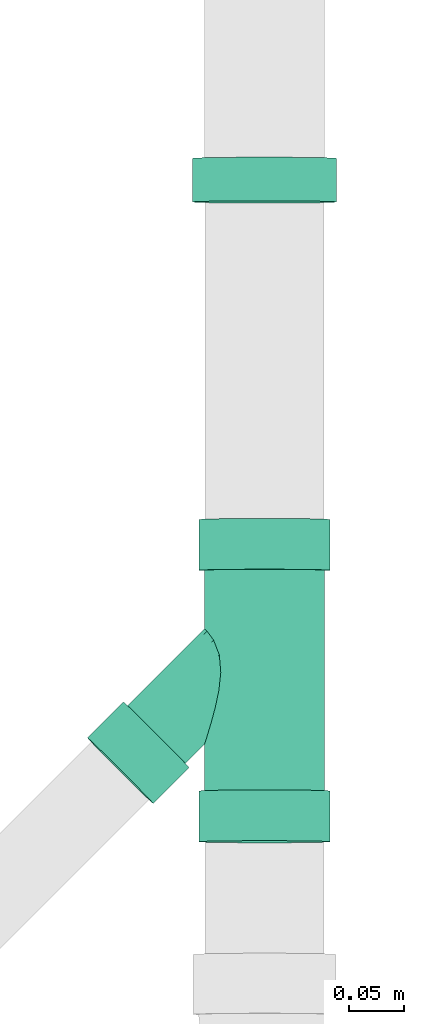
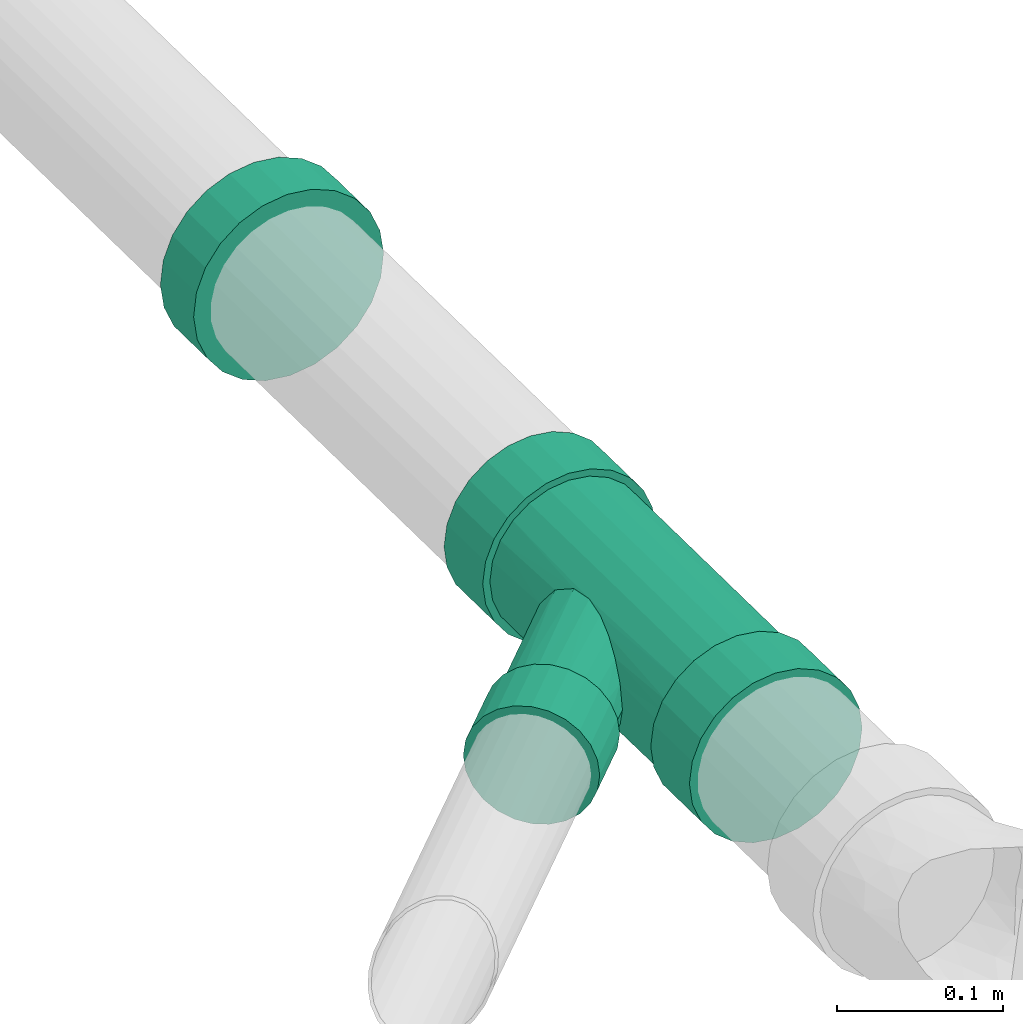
# One storey, part 59 of 83: 2 flow fittings.
"""IFC2X3 building model written with IfcOpenShell, lengths in millimetres."""

from ifc_helpers import new_model, entity, si_unit, converted_unit, derived_unit, direction, frame, origin_with_axes, place, context, subcontext, project, spatial, open_shell, surface_model, source, transform, mapped, type_object, element, save


model = new_model("IFC2X3")

# Units and contexts
model_context = context("Model", 3, precision=0.01, world=frame((0.0, 4.29681676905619e-09, 0.0)), true_north=direction((4.01073788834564e-13, 1.0)))
plan_context = context("Plan", 3, precision=0.01, world=frame((0.0, 4.29681676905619e-09, 0.0)), true_north=direction((4.01073788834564e-13, 1.0)))
body_context = subcontext(model_context, "Body", "Model", "MODEL_VIEW")
ifc_project = project(units=[converted_unit("PLANEANGLEUNIT", "DEGREE", entity("IfcPositiveLengthMeasure", 0.0174532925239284), si_unit("PLANEANGLEUNIT", "RADIAN"), dimensions=[0, 0, 0, 0, 0, 0, 0]), si_unit("AREAUNIT", "SQUARE_METRE"), si_unit("LENGTHUNIT", "METRE", prefix="MILLI"), si_unit("MASSUNIT", "GRAM", prefix="KILO"), si_unit("POWERUNIT", "WATT"), si_unit("PRESSUREUNIT", "PASCAL"), si_unit("FORCEUNIT", "NEWTON", prefix="KILO"), si_unit("ELECTRICVOLTAGEUNIT", "VOLT"), si_unit("ELECTRICCURRENTUNIT", "AMPERE"), si_unit("THERMODYNAMICTEMPERATUREUNIT", "DEGREE_CELSIUS"), si_unit("TIMEUNIT", "SECOND"), si_unit("VOLUMEUNIT", "CUBIC_METRE"), derived_unit("LINEARVELOCITYUNIT", [(si_unit("LENGTHUNIT", "METRE"), 1), (si_unit("TIMEUNIT", "SECOND"), -1)]), derived_unit("VOLUMETRICFLOWRATEUNIT", [(si_unit("VOLUMEUNIT", "CUBIC_METRE"), 1), (si_unit("TIMEUNIT", "SECOND"), -1)]), derived_unit("THERMALTRANSMITTANCEUNIT", [(si_unit("POWERUNIT", "WATT"), 1), (si_unit("THERMODYNAMICTEMPERATUREUNIT", "KELVIN"), -1), (si_unit("AREAUNIT", "SQUARE_METRE"), -1)]), derived_unit("SOUNDPRESSUREUNIT", [(si_unit("PRESSUREUNIT", "PASCAL"), 1)])], contexts=[model_context, plan_context])

# Site, building, storey
site_placement = place(None, frame((0.0, -4.29681676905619e-09, 0.0), z_axis=(0.0, 0.0, 1.0), x_axis=(1.0, 0.0, 0.0)))
site = spatial("IfcSite", under=ifc_project, at=site_placement, Name="ENGM", CompositionType="ELEMENT")
building_placement = place(site_placement, frame((0.0, 4.29681676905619e-09, 0.0), z_axis=(0.0, 0.0, 1.0), x_axis=(1.0, 0.0, 0.0)))
building = spatial("IfcBuilding", under=site, at=building_placement, Name="TI", CompositionType="ELEMENT")
storey_placement = place(building_placement, frame((0.0, 0.0, 204000.0), z_axis=(0.0, 0.0, 1.0), x_axis=(1.0, 0.0, 0.0)))
storey = spatial("IfcBuildingStorey", under=building, at=storey_placement, Name="Nivå D", CompositionType="ELEMENT", Elevation=204000.0)

# Flow fittings
pipe_fitting_type_1 = type_object("IfcPipeFittingType", Name="magi_sewer_tee_wye_NOR", PredefinedType="JUNCTION")
shared_shape_1 = source(origin_with_axes(), body_context, "Body", "SurfaceModel", [
    surface_model("IfcShellBasedSurfaceModel", [(197.2314, 30.0, -51.96152), (197.2314, -42.42641, -42.42641), (197.2314, 15.52914, -57.95555), (197.2314, 51.96152, -30.0), (197.2314, 42.42641, -42.42641), (197.2314, 57.95555, -15.52914), (197.2314, 60.0, 0.0), (197.2314, 0.0, -60.0), (197.2314, -30.0, -51.96152), (197.2314, -15.52914, -57.95555), (197.2314, 57.95555, 15.52914), (197.2314, -51.96152, -30.0), (197.2314, -60.0, 0.0), (197.2314, -57.95555, -15.52914), (197.2314, 51.96152, 30.0), (197.2314, 42.42641, 42.42641), (197.2314, 15.52914, 57.95555), (197.2314, 0.0, 60.0), (197.2314, 30.0, 51.96152), (197.2314, -51.96152, 30.0), (197.2314, -57.95555, 15.52914), (197.2314, -30.0, 51.96152), (197.2314, -42.42641, 42.42641), (197.2314, -15.52914, 57.95555), (150.7314, 42.42641, 42.42641), (150.7314, 0.0, 60.0), (150.7314, 15.52914, 57.95555), (150.7314, 30.0, 51.96152), (150.7314, 51.96152, 30.0), (150.7314, 57.95555, 15.52914), (150.7314, -60.0, 0.0), (150.7314, -30.0, 51.96152), (150.7314, -51.96152, 30.0), (150.7314, -42.42641, 42.42641), (150.7314, -15.52914, 57.95555), (150.7314, -57.95555, 15.52914), (150.7314, -51.96152, -30.0), (150.7314, -42.42641, -42.42641), (150.7314, 57.95555, -15.52914), (150.7314, 42.42641, -42.42641), (150.7314, 51.96152, -30.0), (150.7314, 30.0, -51.96152), (150.7314, 15.52914, -57.95555), (150.7314, -57.95555, -15.52914), (150.7314, -30.0, -51.96152), (150.7314, 0.0, -60.0), (150.7314, -15.52914, -57.95555), (150.7314, 60.0, 0.0), (99.21794, -99.19519, -42.5), (77.97037, -120.44763, -30.05204), (106.99509, -91.41626, -41.05185), (114.24223, -84.16745, -36.80608), (125.24078, -73.16637, -21.25), (120.4655, -77.94275, -30.05204), (128.24264, -70.16382, -10.99981), (84.19364, -114.22292, -36.80608), (91.44078, -106.97412, -41.05185), (70.19322, -128.22656, -10.99981), (69.16934, -129.25067, 0.0), (73.19509, -125.224, -21.25), (128.24264, -70.16382, 10.99981), (70.19322, -128.22656, 10.99981), (125.24078, -73.16637, 21.25), (114.24223, -84.16745, 36.80608), (120.4655, -77.94275, 30.05204), (99.21794, -99.19519, 42.5), (106.99509, -91.41626, 41.05185), (73.19509, -125.224, 21.25), (77.97037, -120.44763, 30.05204), (91.44078, -106.97412, 41.05185), (84.19364, -114.22292, 36.80608), (129.26653, -69.1397, 0.0), (139.87932, -124.29295, -41.05185), (124.32502, -139.85081, -41.05185), (132.10217, -132.07188, -42.5), (153.34974, -110.81944, -30.05204), (147.12647, -117.04414, -36.80608), (158.12501, -106.04307, -21.25), (161.12688, -103.04051, -10.99981), (103.07746, -161.10325, 10.99981), (110.85461, -153.32433, -30.05204), (117.07787, -147.09962, -36.80608), (103.07746, -161.10325, -10.99981), (106.07933, -158.10069, -21.25), (102.05358, -162.12737, 0.0), (161.12688, -103.04051, 10.99981), (158.12501, -106.04307, 21.25), (147.12647, -117.04414, 36.80608), (153.34974, -110.81944, 30.05204), (139.87932, -124.29295, 41.05185), (132.10217, -132.07188, 42.5), (110.85461, -153.32433, 30.05204), (106.07933, -158.10069, 21.25), (117.07787, -147.09962, 36.80608), (124.32502, -139.85081, 41.05185), (162.15077, -102.0164, 0.0), (-98.01347, -30.0, -51.96152), (-98.01347, 42.42641, -42.42641), (-98.01347, -15.52914, -57.95555), (-98.01347, -51.96152, -30.0), (-98.01347, -42.42641, -42.42641), (-98.01347, -57.95555, -15.52914), (-98.01347, -60.0, 0.0), (-98.01347, 0.0, -60.0), (-98.01347, 30.0, -51.96152), (-98.01347, 15.52914, -57.95555), (-98.01347, -57.95555, 15.52914), (-98.01347, 51.96152, -30.0), (-98.01347, 60.0, 0.0), (-98.01347, 57.95555, -15.52914), (-98.01347, -51.96152, 30.0), (-98.01347, -42.42641, 42.42641), (-98.01347, -15.52914, 57.95555), (-98.01347, 0.0, 60.0), (-98.01347, -30.0, 51.96152), (-98.01347, 51.96152, 30.0), (-98.01347, 57.95555, 15.52914), (-98.01347, 30.0, 51.96152), (-98.01347, 42.42641, 42.42641), (-98.01347, 15.52914, 57.95555), (-51.51346, -42.42641, 42.42641), (-51.51346, 0.0, 60.0), (-51.51346, -15.52914, 57.95555), (-51.51346, -30.0, 51.96152), (-51.51346, -51.96152, 30.0), (-51.51346, -57.95555, 15.52914), (-51.51346, 60.0, 0.0), (-51.51346, 30.0, 51.96152), (-51.51346, 51.96152, 30.0), (-51.51346, 42.42641, 42.42641), (-51.51346, 15.52914, 57.95555), (-51.51346, 57.95555, 15.52914), (-51.51346, 51.96152, -30.0), (-51.51346, 42.42641, -42.42641), (-51.51346, -57.95555, -15.52914), (-51.51346, -42.42641, -42.42641), (-51.51346, -51.96152, -30.0), (-51.51346, -30.0, -51.96152), (-51.51346, -15.52914, -57.95555), (-51.51346, 57.95555, -15.52914), (-51.51346, 30.0, -51.96152), (-51.51346, 0.0, -60.0), (-51.51346, 15.52914, -57.95555), (-51.51346, -60.0, 0.0), (150.7314, 0.0, -55.0), (150.7314, 14.23505, -53.12592), (150.7314, 27.5, -47.63139), (150.7314, 38.89087, -38.89087), (150.7314, 47.63139, -27.5), (150.7314, -55.0, 0.0), (150.7314, -27.5, -47.63139), (150.7314, 53.12592, -14.23505), (150.7314, -14.23505, -53.12592), (150.7314, -47.63139, -27.5), (150.7314, -38.89087, -38.89087), (150.7314, -53.12592, -14.23505), (150.7314, -47.63139, 27.5), (150.7314, 55.0, 0.0), (150.7314, 47.63139, 27.5), (150.7314, 27.5, 47.63139), (150.7314, 38.89087, 38.89087), (150.7314, 14.23505, 53.12592), (150.7314, 0.0, 55.0), (150.7314, -53.12592, 14.23505), (150.7314, -27.5, 47.63139), (150.7314, -38.89087, 38.89087), (150.7314, -14.23505, 53.12592), (150.7314, 53.12592, 14.23505), (-51.51346, 0.0, 55.0), (-51.51346, 14.23505, 53.12592), (-51.51346, 27.5, 47.63139), (-51.51346, 47.63139, 27.5), (-51.51346, -47.63139, 27.5), (-51.51346, 38.89087, 38.89087), (-51.51346, 53.12592, -14.23505), (-51.51346, -27.5, 47.63139), (-51.51346, -14.23505, 53.12592), (-51.51346, -38.89087, 38.89087), (-51.51346, -55.0, 0.0), (-51.51346, -53.12592, 14.23505), (-51.51346, 53.12592, 14.23505), (-51.51346, 47.63139, -27.5), (-51.51346, -27.5, -47.63139), (-51.51346, 0.0, -55.0), (-51.51346, 38.89087, -38.89087), (-51.51346, 27.5, -47.63139), (-51.51346, 14.23505, -53.12592), (-51.51346, -47.63139, -27.5), (-51.51346, -38.89087, -38.89087), (-51.51346, -53.12592, -14.23505), (-51.51346, -14.23505, -53.12592), (-51.51346, 55.0, 0.0), (1.97352, -55.0, 0.0), (4.64918, -52.63398, -15.9582), (26.60062, -41.6117, -35.96479), (12.91165, -46.84943, -28.81199), (42.85864, -40.27485, -37.45579), (89.17249, -49.17381, -24.63609), (150.7314, -50.37866, -20.86752), (108.0517, -55.0, 0.0), (101.74192, -52.97914, -14.77195), (74.62728, -45.26915, -31.23625), (59.08596, -42.00512, -35.50451), (42.85864, -40.27485, 37.45579), (26.60062, -41.6117, 35.96479), (12.91165, -46.84943, 28.81199), (101.74192, -52.97914, 14.77195), (150.7314, -50.37866, 20.86752), (89.17249, -49.17381, 24.63609), (4.64918, -52.63398, 15.9582), (59.08596, -42.00512, 35.50451), (74.62728, -45.26915, 31.23625), (99.21794, -99.19519, -37.5), (106.08013, -92.33143, -36.22222), (112.47467, -85.93542, -32.47595), (85.9612, -112.45495, -32.47595), (122.17927, -76.22859, -18.75), (124.82797, -73.57928, -9.70571), (117.96578, -80.44304, -26.5165), (73.60789, -124.8111, 9.70571), (76.2566, -122.16178, -18.75), (80.47009, -117.94733, -26.5165), (92.35575, -106.05895, -36.22222), (73.60789, -124.8111, -9.70571), (72.70447, -125.71473, 0.0), (125.7314, -72.67564, 0.0), (124.82797, -73.57928, 9.70571), (122.17927, -76.22859, 18.75), (117.96578, -80.44304, 26.5165), (112.47467, -85.93542, 32.47595), (106.08013, -92.33143, 36.22222), (76.2566, -122.16178, 18.75), (85.9612, -112.45495, 32.47595), (80.47009, -117.94733, 26.5165), (92.35575, -106.05895, 36.22222), (99.21794, -99.19519, 37.5), (8.78041, -49.7417, 22.3851), (19.75614, -44.23057, 32.38839), (3.31135, -53.81699, 7.9791), (106.47426, -54.49478, 3.69299), (125.27969, -73.12746, 4.85286), (123.50363, -74.90393, 14.22786), (104.89681, -53.98957, 7.38598), (95.45721, -51.07647, 19.70402), (104.89681, -53.98957, -7.38598), (125.27969, -73.12746, -4.85286), (95.45721, -51.07647, -19.70402), (106.47426, -54.49478, -3.69299), (8.78041, -49.7417, -22.3851), (123.50363, -74.90393, -14.22786), (19.75614, -44.23057, -32.38839), (3.31135, -53.81699, -7.9791)], [open_shell([[[0, 1, 2]], [[3, 0, 4]], [[5, 6, 0]], [[5, 0, 3]], [[1, 0, 6]], [[7, 8, 9]], [[8, 7, 1]], [[2, 1, 7]], [[1, 10, 11]], [[11, 12, 13]], [[10, 1, 6]], [[10, 14, 15]], [[12, 10, 15]], [[16, 17, 15]], [[16, 15, 18]], [[19, 15, 17]], [[12, 19, 20]], [[12, 15, 19]], [[19, 21, 22]], [[19, 17, 21]], [[23, 21, 17]], [[10, 12, 11]], [[24, 25, 26]], [[24, 26, 27]], [[24, 28, 29]], [[25, 24, 30]], [[30, 24, 29]], [[31, 32, 33]], [[31, 34, 25]], [[32, 30, 35]], [[31, 25, 32]], [[25, 30, 32]], [[29, 36, 30]], [[37, 29, 38]], [[39, 38, 40]], [[41, 42, 38]], [[41, 38, 39]], [[37, 38, 42]], [[37, 36, 29]], [[43, 30, 36]], [[44, 45, 46]], [[45, 44, 37]], [[45, 37, 42]], [[47, 38, 29]], [[43, 13, 30]], [[36, 11, 43]], [[8, 37, 44]], [[36, 37, 1]], [[9, 44, 46]], [[43, 11, 13]], [[13, 12, 30]], [[9, 8, 44]], [[1, 37, 8]], [[1, 11, 36]], [[7, 9, 46]], [[46, 45, 7]], [[2, 42, 41]], [[39, 0, 41]], [[3, 40, 38]], [[39, 40, 4]], [[5, 38, 47]], [[42, 2, 45]], [[41, 0, 2]], [[45, 2, 7]], [[39, 4, 0]], [[40, 3, 4]], [[5, 3, 38]], [[47, 6, 5]], [[29, 10, 47]], [[28, 14, 29]], [[18, 24, 27]], [[28, 24, 15]], [[16, 27, 26]], [[29, 14, 10]], [[10, 6, 47]], [[18, 27, 16]], [[15, 24, 18]], [[15, 14, 28]], [[16, 25, 17]], [[16, 26, 25]], [[23, 34, 31]], [[33, 21, 31]], [[19, 32, 35]], [[33, 32, 22]], [[20, 35, 30]], [[34, 23, 25]], [[31, 21, 23]], [[25, 23, 17]], [[33, 22, 21]], [[32, 19, 22]], [[20, 19, 35]], [[30, 12, 20]], [[48, 49, 50]], [[51, 50, 52]], [[49, 52, 50]], [[53, 51, 52]], [[52, 49, 54]], [[55, 49, 56]], [[49, 48, 56]], [[57, 58, 59]], [[49, 59, 58]], [[49, 58, 54]], [[58, 60, 54]], [[60, 58, 61]], [[60, 61, 62]], [[63, 62, 61]], [[64, 62, 63]], [[63, 65, 66]], [[67, 68, 61]], [[68, 63, 61]], [[69, 65, 70]], [[68, 70, 65]], [[68, 65, 63]], [[71, 54, 60]], [[72, 73, 74]], [[75, 72, 76]], [[75, 77, 78]], [[79, 73, 72]], [[72, 75, 79]], [[73, 80, 81]], [[80, 73, 82]], [[80, 82, 83]], [[84, 82, 79]], [[79, 82, 73]], [[75, 78, 85]], [[75, 85, 86]], [[79, 75, 86]], [[79, 86, 87]], [[87, 86, 88]], [[89, 90, 87]], [[79, 91, 92]], [[91, 79, 93]], [[79, 94, 93]], [[79, 87, 94]], [[87, 90, 94]], [[85, 78, 95]], [[79, 58, 84]], [[92, 61, 79]], [[93, 94, 69]], [[91, 93, 68]], [[91, 67, 92]], [[92, 67, 61]], [[61, 58, 79]], [[68, 93, 70]], [[69, 70, 93]], [[65, 69, 94]], [[68, 67, 91]], [[94, 90, 65]], [[63, 89, 87]], [[88, 64, 87]], [[60, 86, 85]], [[88, 86, 62]], [[71, 85, 95]], [[89, 66, 90]], [[89, 63, 66]], [[90, 66, 65]], [[87, 64, 63]], [[88, 62, 64]], [[60, 62, 86]], [[85, 71, 60]], [[78, 77, 52]], [[95, 78, 71]], [[51, 75, 76]], [[75, 53, 77]], [[50, 76, 72]], [[54, 71, 78]], [[52, 54, 78]], [[52, 77, 53]], [[75, 51, 53]], [[50, 51, 76]], [[72, 48, 50]], [[72, 74, 48]], [[55, 73, 81]], [[80, 49, 81]], [[57, 83, 82]], [[80, 83, 59]], [[58, 82, 84]], [[73, 56, 74]], [[73, 55, 56]], [[74, 56, 48]], [[81, 49, 55]], [[80, 59, 49]], [[57, 59, 83]], [[82, 58, 57]], [[96, 97, 98]], [[99, 96, 100]], [[101, 102, 96]], [[101, 96, 99]], [[97, 96, 102]], [[103, 104, 105]], [[104, 103, 97]], [[98, 97, 103]], [[97, 106, 107]], [[107, 108, 109]], [[106, 97, 102]], [[106, 110, 111]], [[108, 106, 111]], [[112, 113, 111]], [[112, 111, 114]], [[115, 111, 113]], [[108, 115, 116]], [[108, 111, 115]], [[115, 117, 118]], [[115, 113, 117]], [[119, 117, 113]], [[106, 108, 107]], [[120, 121, 122]], [[120, 122, 123]], [[120, 124, 125]], [[121, 120, 126]], [[126, 120, 125]], [[127, 128, 129]], [[127, 130, 121]], [[128, 126, 131]], [[127, 121, 128]], [[121, 126, 128]], [[125, 132, 126]], [[133, 125, 134]], [[135, 134, 136]], [[137, 138, 134]], [[137, 134, 135]], [[133, 134, 138]], [[133, 132, 125]], [[139, 126, 132]], [[140, 141, 142]], [[141, 140, 133]], [[141, 133, 138]], [[143, 134, 125]], [[139, 109, 126]], [[132, 107, 139]], [[104, 133, 140]], [[132, 133, 97]], [[105, 140, 142]], [[139, 107, 109]], [[109, 108, 126]], [[105, 104, 140]], [[97, 133, 104]], [[97, 107, 132]], [[103, 105, 142]], [[142, 141, 103]], [[98, 138, 137]], [[135, 96, 137]], [[99, 136, 134]], [[135, 136, 100]], [[101, 134, 143]], [[138, 98, 141]], [[137, 96, 98]], [[141, 98, 103]], [[135, 100, 96]], [[136, 99, 100]], [[101, 99, 134]], [[143, 102, 101]], [[125, 106, 143]], [[124, 110, 125]], [[114, 120, 123]], [[124, 120, 111]], [[112, 123, 122]], [[125, 110, 106]], [[106, 102, 143]], [[114, 123, 112]], [[111, 120, 114]], [[111, 110, 124]], [[112, 121, 113]], [[112, 122, 121]], [[119, 130, 127]], [[129, 117, 127]], [[115, 128, 131]], [[129, 128, 118]], [[116, 131, 126]], [[130, 119, 121]], [[127, 117, 119]], [[121, 119, 113]], [[129, 118, 117]], [[128, 115, 118]], [[116, 115, 131]], [[126, 108, 116]], [[144, 145, 146]], [[147, 144, 146]], [[148, 149, 150]], [[148, 150, 147]], [[148, 151, 149]], [[144, 150, 152]], [[144, 147, 150]], [[150, 153, 154]], [[153, 150, 149]], [[149, 155, 153]], [[156, 151, 157]], [[156, 157, 158]], [[159, 158, 160]], [[159, 161, 162]], [[159, 162, 158]], [[156, 158, 162]], [[149, 156, 163]], [[151, 156, 149]], [[162, 164, 165]], [[165, 156, 162]], [[164, 162, 166]], [[157, 167, 158]], [[168, 169, 170]], [[168, 170, 171]], [[168, 171, 172]], [[171, 170, 173]], [[174, 172, 171]], [[168, 175, 176]], [[168, 177, 175]], [[172, 178, 179]], [[177, 168, 172]], [[172, 174, 178]], [[174, 171, 180]], [[174, 181, 178]], [[181, 182, 178]], [[183, 184, 185]], [[181, 184, 183]], [[185, 186, 183]], [[187, 182, 188]], [[189, 178, 187]], [[182, 183, 190]], [[187, 178, 182]], [[183, 182, 181]], [[191, 174, 180]], [[178, 189, 192]], [[193, 192, 189]], [[189, 187, 193]], [[187, 188, 194]], [[194, 195, 187]], [[196, 194, 188]], [[196, 150, 154]], [[187, 195, 193]], [[197, 153, 198]], [[199, 200, 155]], [[155, 149, 199]], [[197, 198, 200]], [[201, 202, 154]], [[201, 153, 197]], [[153, 201, 154]], [[198, 155, 200]], [[202, 196, 154]], [[196, 188, 182]], [[152, 190, 183]], [[150, 182, 190]], [[144, 183, 186]], [[181, 174, 148]], [[146, 185, 184]], [[147, 184, 181]], [[186, 185, 145]], [[151, 174, 191]], [[150, 190, 152]], [[152, 183, 144]], [[145, 144, 186]], [[185, 146, 145]], [[146, 184, 147]], [[148, 147, 181]], [[151, 148, 174]], [[191, 157, 151]], [[182, 150, 196]], [[171, 158, 180]], [[158, 171, 173]], [[191, 180, 167]], [[168, 176, 162]], [[169, 159, 170]], [[161, 169, 168]], [[173, 170, 160]], [[166, 176, 175]], [[158, 167, 180]], [[173, 160, 158]], [[167, 157, 191]], [[170, 159, 160]], [[159, 169, 161]], [[162, 161, 168]], [[166, 162, 176]], [[175, 164, 166]], [[175, 203, 164]], [[204, 172, 205]], [[172, 204, 177]], [[206, 207, 208]], [[204, 203, 177]], [[203, 165, 164]], [[179, 178, 192]], [[179, 209, 172]], [[209, 179, 192]], [[172, 209, 205]], [[210, 211, 165]], [[156, 165, 211]], [[211, 208, 156]], [[210, 165, 203]], [[206, 163, 207]], [[163, 199, 149]], [[199, 163, 206]], [[208, 207, 156]], [[203, 175, 177]], [[212, 213, 214]], [[215, 212, 214]], [[216, 217, 214]], [[216, 214, 218]], [[214, 219, 215]], [[215, 220, 221]], [[215, 222, 212]], [[215, 223, 220]], [[224, 223, 219]], [[223, 215, 219]], [[214, 217, 219]], [[225, 226, 227]], [[225, 227, 228]], [[228, 229, 230]], [[225, 228, 219]], [[219, 228, 230]], [[231, 232, 233]], [[234, 231, 219]], [[231, 234, 232]], [[234, 219, 235]], [[219, 230, 235]], [[225, 219, 217]], [[233, 236, 231]], [[232, 204, 237]], [[203, 204, 234]], [[219, 238, 224]], [[231, 209, 219]], [[238, 192, 224]], [[209, 231, 236]], [[233, 205, 236]], [[219, 209, 238]], [[205, 233, 232]], [[225, 239, 240]], [[234, 235, 203]], [[210, 230, 229]], [[228, 211, 229]], [[206, 241, 226]], [[228, 227, 208]], [[240, 239, 242]], [[230, 210, 203]], [[229, 211, 210]], [[227, 206, 243]], [[242, 226, 240]], [[206, 227, 241]], [[243, 208, 227]], [[242, 206, 226]], [[239, 225, 199]], [[228, 208, 211]], [[237, 205, 232]], [[230, 203, 235]], [[204, 232, 234]], [[217, 244, 245]], [[217, 200, 244]], [[201, 218, 214]], [[216, 197, 246]], [[245, 244, 247]], [[202, 214, 213]], [[248, 220, 193]], [[200, 217, 249]], [[225, 245, 247]], [[200, 249, 216]], [[200, 216, 246]], [[225, 247, 199]], [[248, 195, 221]], [[197, 216, 218]], [[197, 218, 201]], [[215, 195, 250]], [[214, 202, 201]], [[213, 196, 202]], [[222, 215, 194]], [[215, 250, 194]], [[224, 251, 223]], [[251, 224, 192]], [[212, 222, 196]], [[212, 196, 213]], [[222, 194, 196]], [[215, 221, 195]], [[220, 248, 221]], [[193, 220, 223]], [[251, 193, 223]]])]),
])
flow_fitting_1_placement = place(storey_placement, frame((602182.39912, 694115.89826, 6048.75547), z_axis=(0.00682399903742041, 0.01666399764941, 0.999837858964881), x_axis=(9.88923206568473e-07, -0.999861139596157, 0.016664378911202)))
element("IfcFlowFitting", 1, at=flow_fitting_1_placement, inside=storey, type_object=pipe_fitting_type_1, Name="magi_sewer_tee_wye_NOR", context=body_context, shape_type="MappedRepresentation", body=[
    mapped(shared_shape_1, transform((0.0, 0.0, 0.0), scale=1.0)),
])
pipe_fitting_type_2 = type_object("IfcPipeFittingType", Name="magi_sewer_union_001", PredefinedType="CONNECTOR")
shared_shape_2 = source(origin_with_axes(), body_context, "Body", "SurfaceModel", [
    surface_model("IfcShellBasedSurfaceModel", [(0.0, -33.0, -57.15768), (0.0, -46.66905, -46.66905), (0.0, -17.08206, -63.75111), (0.0, -57.15768, -33.0), (0.0, -63.75111, -17.08206), (0.0, 17.08206, -63.75111), (0.0, 0.0, -66.0), (0.0, 63.75111, -17.08206), (0.0, 33.0, -57.15768), (0.0, 46.66905, -46.66905), (0.0, 57.15768, -33.0), (0.0, -66.0, 0.0), (0.0, -33.0, 57.15768), (0.0, 33.0, 57.15768), (0.0, 63.75111, 17.08206), (0.0, 66.0, 0.0), (0.0, 46.66905, 46.66905), (0.0, 57.15768, 33.0), (0.0, 17.08206, 63.75111), (0.0, 0.0, 66.0), (0.0, -57.15768, 33.0), (0.0, -46.66905, 46.66905), (0.0, -63.75111, 17.08206), (0.0, -17.08206, 63.75111), (40.0, 63.75111, -17.08206), (40.0, 0.0, -66.0), (40.0, 17.08206, -63.75111), (40.0, 46.66905, -46.66905), (40.0, 33.0, -57.15768), (40.0, 57.15768, -33.0), (40.0, -63.75111, -17.08206), (40.0, -17.08206, -63.75111), (40.0, -46.66905, -46.66905), (40.0, -33.0, -57.15768), (40.0, -57.15768, -33.0), (40.0, -63.75111, 17.08206), (40.0, -66.0, 0.0), (40.0, 46.66905, 46.66905), (40.0, 66.0, 0.0), (40.0, 63.75111, 17.08206), (40.0, 57.15768, 33.0), (40.0, 33.0, 57.15768), (40.0, 0.0, 66.0), (40.0, 17.08206, 63.75111), (40.0, -46.66905, 46.66905), (40.0, -57.15768, 33.0), (40.0, -33.0, 57.15768), (40.0, -17.08206, 63.75111)], [open_shell([[[0, 1, 2]], [[3, 4, 1]], [[5, 6, 7]], [[8, 5, 9]], [[7, 10, 9]], [[5, 7, 9]], [[4, 7, 6]], [[1, 6, 2]], [[1, 4, 6]], [[11, 12, 4]], [[13, 7, 4]], [[14, 15, 16]], [[17, 14, 16]], [[13, 4, 12]], [[16, 15, 13]], [[18, 13, 19]], [[20, 21, 22]], [[21, 11, 22]], [[23, 19, 12]], [[21, 12, 11]], [[12, 19, 13]], [[15, 7, 13]], [[24, 25, 26]], [[27, 26, 28]], [[27, 29, 24]], [[27, 24, 26]], [[25, 24, 30]], [[31, 32, 33]], [[31, 25, 32]], [[32, 30, 34]], [[25, 30, 32]], [[30, 35, 36]], [[30, 24, 35]], [[37, 38, 39]], [[37, 39, 40]], [[38, 41, 35]], [[41, 38, 37]], [[42, 41, 43]], [[35, 44, 45]], [[44, 35, 46]], [[46, 42, 47]], [[46, 35, 41]], [[41, 42, 46]], [[38, 35, 24]], [[35, 11, 36]], [[45, 22, 35]], [[21, 44, 46]], [[45, 44, 20]], [[12, 46, 47]], [[45, 20, 22]], [[22, 11, 35]], [[23, 42, 19]], [[23, 12, 47]], [[21, 46, 12]], [[21, 20, 44]], [[42, 23, 47]], [[41, 18, 43]], [[37, 13, 41]], [[39, 38, 15]], [[40, 39, 17]], [[40, 16, 37]], [[41, 13, 18]], [[18, 19, 43]], [[17, 39, 14]], [[39, 15, 14]], [[16, 13, 37]], [[16, 40, 17]], [[43, 19, 42]], [[24, 15, 38]], [[29, 7, 24]], [[9, 27, 28]], [[29, 27, 10]], [[8, 28, 26]], [[29, 10, 7]], [[7, 15, 24]], [[5, 25, 6]], [[5, 8, 26]], [[9, 28, 8]], [[9, 10, 27]], [[25, 5, 26]], [[1, 33, 32]], [[31, 33, 2]], [[4, 34, 30]], [[32, 34, 3]], [[11, 30, 36]], [[2, 6, 31]], [[2, 33, 0]], [[0, 33, 1]], [[32, 3, 1]], [[4, 3, 34]], [[11, 4, 30]], [[31, 6, 25]]])]),
])
flow_fitting_2_placement = place(storey_placement, frame((602182.39912, 694544.79188, 6041.60724000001), z_axis=(0.999976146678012, 0.000115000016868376, 0.00690600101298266), x_axis=(-1.11330665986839e-07, -0.999861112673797, 0.0166659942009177)))
element("IfcFlowFitting", 2, at=flow_fitting_2_placement, inside=storey, type_object=pipe_fitting_type_2, Name="magi_sewer_union_001", context=body_context, shape_type="MappedRepresentation", body=[
    mapped(shared_shape_2, transform((0.0, 0.0, 0.0), scale=1.0)),
])

save(model, "model.ifc")
